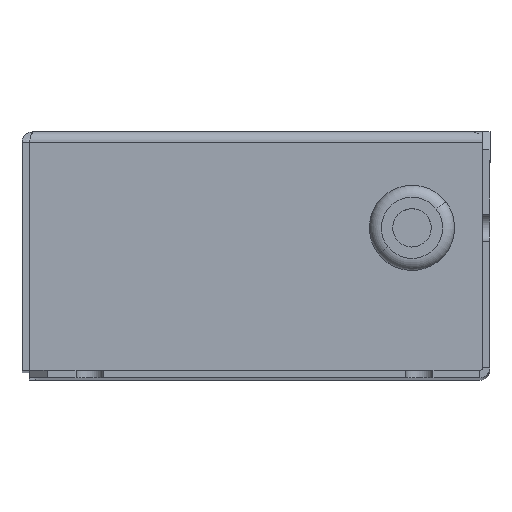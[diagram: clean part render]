
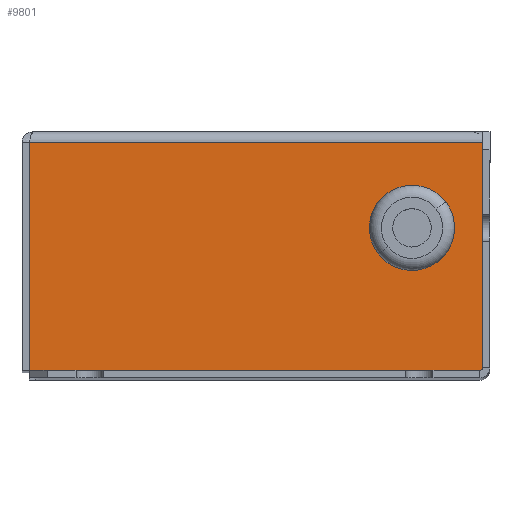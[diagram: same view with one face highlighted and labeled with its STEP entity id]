
A CAD part, top view. The second image highlights one B-rep face of the part: STEP entity #9801.
In plain terms, the highlighted planar face has unit normal (0, 0, 1) as drawn and (0, 0, -1) by its records, which use the part's own axes.
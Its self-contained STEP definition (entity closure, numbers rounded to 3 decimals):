
#19 = VERTEX_POINT ( 'NONE', #12316 ) ;
#84 = CIRCLE ( 'NONE', #646, 5. ) ;
#163 = PLANE ( 'NONE',  #7508 ) ;
#189 = CARTESIAN_POINT ( 'NONE',  ( 75.529, -0.5, -214. ) ) ;
#249 = DIRECTION ( 'NONE',  ( 0., 1., 0. ) ) ;
#280 = CARTESIAN_POINT ( 'NONE',  ( 0., -0.5, -214. ) ) ;
#445 = DIRECTION ( 'NONE',  ( -1., 0., 0. ) ) ;
#621 = LINE ( 'NONE', #6406, #10044 ) ;
#641 = VERTEX_POINT ( 'NONE', #10154 ) ;
#646 = AXIS2_PLACEMENT_3D ( 'NONE', #1133, #4059, #6992 ) ;
#1133 = CARTESIAN_POINT ( 'NONE',  ( 11.8, -14.8, -214. ) ) ;
#1520 = DIRECTION ( 'NONE',  ( 0., -1., 0. ) ) ;
#1837 = DIRECTION ( 'NONE',  ( 0., 0., -1. ) ) ;
#2308 = EDGE_CURVE ( 'NONE', #7147, #4374, #621, .T. ) ;
#2648 = AXIS2_PLACEMENT_3D ( 'NONE', #5643, #1837, #4776 ) ;
#3259 = FACE_OUTER_BOUND ( 'NONE', #5375, .T. ) ;
#3512 = ORIENTED_EDGE ( 'NONE', *, *, #2308, .T. ) ;
#3824 = CARTESIAN_POINT ( 'NONE',  ( 76.8, 0., -214. ) ) ;
#4059 = DIRECTION ( 'NONE',  ( 0., 0., -1. ) ) ;
#4374 = VERTEX_POINT ( 'NONE', #6451 ) ;
#4626 = EDGE_CURVE ( 'NONE', #7147, #12077, #7171, .T. ) ;
#4632 = LINE ( 'NONE', #10806, #6582 ) ;
#4776 = DIRECTION ( 'NONE',  ( 0., 1., 0. ) ) ;
#4858 = DIRECTION ( 'NONE',  ( 0., 0., 1. ) ) ;
#5375 = EDGE_LOOP ( 'NONE', ( #12331, #3512, #8148, #10080 ) ) ;
#5482 = VECTOR ( 'NONE', #445, 1000. ) ;
#5609 = ORIENTED_EDGE ( 'NONE', *, *, #7039, .F. ) ;
#5643 = CARTESIAN_POINT ( 'NONE',  ( 11.8, -14.8, -214. ) ) ;
#5930 = DIRECTION ( 'NONE',  ( -1., 0., 0. ) ) ;
#5973 = EDGE_LOOP ( 'NONE', ( #10302, #5609 ) ) ;
#6406 = CARTESIAN_POINT ( 'NONE',  ( 75.529, 0., -214. ) ) ;
#6451 = CARTESIAN_POINT ( 'NONE',  ( 75.529, -38.6, -214. ) ) ;
#6582 = VECTOR ( 'NONE', #249, 1000. ) ;
#6992 = DIRECTION ( 'NONE',  ( 0., 1., 0. ) ) ;
#7039 = EDGE_CURVE ( 'NONE', #8595, #641, #84, .T. ) ;
#7147 = VERTEX_POINT ( 'NONE', #189 ) ;
#7171 = LINE ( 'NONE', #280, #8980 ) ;
#7330 = CARTESIAN_POINT ( 'NONE',  ( 76.8, -38.6, -214. ) ) ;
#7508 = AXIS2_PLACEMENT_3D ( 'NONE', #3824, #4858, #7675 ) ;
#7675 = DIRECTION ( 'NONE',  ( 0., -1., 0. ) ) ;
#8060 = LINE ( 'NONE', #7330, #5482 ) ;
#8116 = EDGE_CURVE ( 'NONE', #641, #8595, #11401, .T. ) ;
#8148 = ORIENTED_EDGE ( 'NONE', *, *, #11265, .T. ) ;
#8595 = VERTEX_POINT ( 'NONE', #9238 ) ;
#8980 = VECTOR ( 'NONE', #5930, 1000. ) ;
#9238 = CARTESIAN_POINT ( 'NONE',  ( 11.8, -19.8, -214. ) ) ;
#9623 = CARTESIAN_POINT ( 'NONE',  ( 0., -0.5, -214. ) ) ;
#9801 = ADVANCED_FACE ( 'NONE', ( #10889, #3259 ), #163, .F. ) ;
#9907 = EDGE_CURVE ( 'NONE', #19, #12077, #4632, .T. ) ;
#10044 = VECTOR ( 'NONE', #1520, 1000. ) ;
#10080 = ORIENTED_EDGE ( 'NONE', *, *, #9907, .T. ) ;
#10154 = CARTESIAN_POINT ( 'NONE',  ( 11.8, -9.8, -214. ) ) ;
#10302 = ORIENTED_EDGE ( 'NONE', *, *, #8116, .F. ) ;
#10806 = CARTESIAN_POINT ( 'NONE',  ( 0., 0., -214. ) ) ;
#10889 = FACE_BOUND ( 'NONE', #5973, .T. ) ;
#11265 = EDGE_CURVE ( 'NONE', #4374, #19, #8060, .T. ) ;
#11401 = CIRCLE ( 'NONE', #2648, 5. ) ;
#12077 = VERTEX_POINT ( 'NONE', #9623 ) ;
#12316 = CARTESIAN_POINT ( 'NONE',  ( 0., -38.6, -214. ) ) ;
#12331 = ORIENTED_EDGE ( 'NONE', *, *, #4626, .F. ) ;
